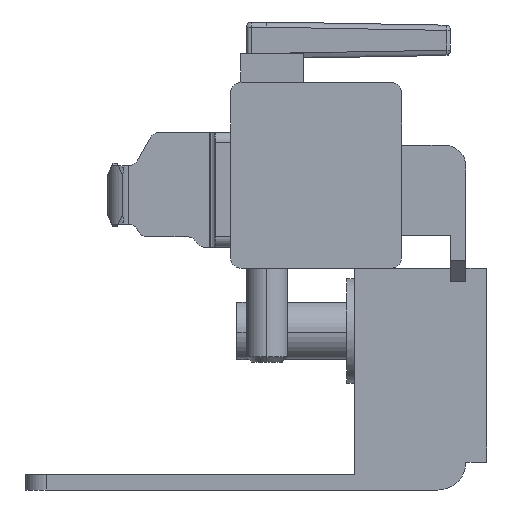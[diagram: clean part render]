
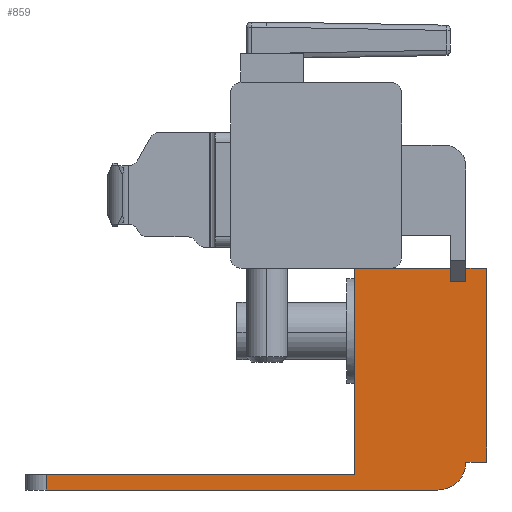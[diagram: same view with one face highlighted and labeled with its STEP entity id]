
A CAD part, left-side view. The second image highlights one B-rep face of the part: STEP entity #859.
In plain terms, the highlighted planar face has unit normal (-1, 0, 0).
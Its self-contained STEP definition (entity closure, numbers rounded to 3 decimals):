
#60 = VERTEX_POINT ( 'NONE', #2861 ) ;
#104 = DIRECTION ( 'NONE',  ( 0., 1., 0. ) ) ;
#128 = ORIENTED_EDGE ( 'NONE', *, *, #1213, .T. ) ;
#190 = VERTEX_POINT ( 'NONE', #672 ) ;
#259 = CARTESIAN_POINT ( 'NONE',  ( -381., -28.333, 40.749 ) ) ;
#271 = EDGE_LOOP ( 'NONE', ( #2175, #5175, #3751, #1990, #2206, #3690, #1150, #4305, #1864, #2895, #128, #1502, #2532 ) ) ;
#347 = VERTEX_POINT ( 'NONE', #4652 ) ;
#351 = FACE_OUTER_BOUND ( 'NONE', #271, .T. ) ;
#353 = CARTESIAN_POINT ( 'NONE',  ( -381., -26.863, 39.459 ) ) ;
#355 = VECTOR ( 'NONE', #1571, 1000. ) ;
#385 = VECTOR ( 'NONE', #3450, 1000. ) ;
#465 = CIRCLE ( 'NONE', #3448, 2.67 ) ;
#592 = CARTESIAN_POINT ( 'NONE',  ( -381., 11.767, 19.549 ) ) ;
#658 = CARTESIAN_POINT ( 'NONE',  ( -381., -28.333, 22.219 ) ) ;
#672 = CARTESIAN_POINT ( 'NONE',  ( -381., -17.713, 21.019 ) ) ;
#703 = CARTESIAN_POINT ( 'NONE',  ( -381., -17.713, 40.749 ) ) ;
#813 = VERTEX_POINT ( 'NONE', #1758 ) ;
#834 = DIRECTION ( 'NONE',  ( 0., 1., 0. ) ) ;
#859 = ADVANCED_FACE ( 'NONE', ( #351 ), #1041, .F. ) ;
#959 = LINE ( 'NONE', #1208, #4440 ) ;
#1021 = DIRECTION ( 'NONE',  ( 0., 1., 0. ) ) ;
#1041 = PLANE ( 'NONE',  #3249 ) ;
#1133 = DIRECTION ( 'NONE',  ( 1., 0., 0. ) ) ;
#1138 = DIRECTION ( 'NONE',  ( 0., -1., 0. ) ) ;
#1145 = EDGE_CURVE ( 'NONE', #347, #190, #1524, .T. ) ;
#1150 = ORIENTED_EDGE ( 'NONE', *, *, #1650, .F. ) ;
#1190 = EDGE_CURVE ( 'NONE', #347, #60, #5946, .T. ) ;
#1208 = CARTESIAN_POINT ( 'NONE',  ( -381., -30.333, 22.219 ) ) ;
#1213 = EDGE_CURVE ( 'NONE', #4526, #813, #3400, .T. ) ;
#1228 = VECTOR ( 'NONE', #1138, 1000. ) ;
#1329 = DIRECTION ( 'NONE',  ( 0., 1., 0. ) ) ;
#1353 = CARTESIAN_POINT ( 'NONE',  ( -381., -28.333, 40.749 ) ) ;
#1502 = ORIENTED_EDGE ( 'NONE', *, *, #3657, .T. ) ;
#1524 = LINE ( 'NONE', #5213, #5162 ) ;
#1538 = VERTEX_POINT ( 'NONE', #4500 ) ;
#1571 = DIRECTION ( 'NONE',  ( 0., 0., 1. ) ) ;
#1617 = CARTESIAN_POINT ( 'NONE',  ( -381., -29.063, 21.019 ) ) ;
#1619 = CARTESIAN_POINT ( 'NONE',  ( -381., -30.333, 22.219 ) ) ;
#1650 = EDGE_CURVE ( 'NONE', #3960, #2916, #4807, .T. ) ;
#1714 = VECTOR ( 'NONE', #5315, 1000. ) ;
#1743 = CARTESIAN_POINT ( 'NONE',  ( -381., -25.663, 22.219 ) ) ;
#1758 = CARTESIAN_POINT ( 'NONE',  ( -381., -30.333, 40.749 ) ) ;
#1808 = EDGE_CURVE ( 'NONE', #4526, #2243, #959, .T. ) ;
#1823 = DIRECTION ( 'NONE',  ( 0., 0., -1. ) ) ;
#1864 = ORIENTED_EDGE ( 'NONE', *, *, #5838, .F. ) ;
#1950 = LINE ( 'NONE', #5529, #3325 ) ;
#1990 = ORIENTED_EDGE ( 'NONE', *, *, #1190, .F. ) ;
#2068 = EDGE_CURVE ( 'NONE', #60, #1538, #1950, .T. ) ;
#2125 = CARTESIAN_POINT ( 'NONE',  ( -381., 14.667, 19.549 ) ) ;
#2153 = VECTOR ( 'NONE', #3007, 1000. ) ;
#2173 = CARTESIAN_POINT ( 'NONE',  ( -381., -25.663, 19.549 ) ) ;
#2175 = ORIENTED_EDGE ( 'NONE', *, *, #4755, .T. ) ;
#2192 = DIRECTION ( 'NONE',  ( 0., 0., 1. ) ) ;
#2206 = ORIENTED_EDGE ( 'NONE', *, *, #1145, .T. ) ;
#2231 = CARTESIAN_POINT ( 'NONE',  ( -381., -30.333, 22.219 ) ) ;
#2243 = VERTEX_POINT ( 'NONE', #658 ) ;
#2338 = VERTEX_POINT ( 'NONE', #2173 ) ;
#2368 = LINE ( 'NONE', #3128, #4641 ) ;
#2424 = CARTESIAN_POINT ( 'NONE',  ( -381., -29.063, 23.319 ) ) ;
#2532 = ORIENTED_EDGE ( 'NONE', *, *, #5669, .T. ) ;
#2625 = LINE ( 'NONE', #5607, #5052 ) ;
#2688 = LINE ( 'NONE', #1353, #5115 ) ;
#2814 = DIRECTION ( 'NONE',  ( 0., -1., 0. ) ) ;
#2861 = CARTESIAN_POINT ( 'NONE',  ( -381., -21.203, 40.749 ) ) ;
#2895 = ORIENTED_EDGE ( 'NONE', *, *, #1808, .F. ) ;
#2916 = VERTEX_POINT ( 'NONE', #3395 ) ;
#2951 = LINE ( 'NONE', #2125, #1714 ) ;
#3007 = DIRECTION ( 'NONE',  ( 0., 0., 1. ) ) ;
#3073 = EDGE_CURVE ( 'NONE', #3960, #2338, #2951, .T. ) ;
#3128 = CARTESIAN_POINT ( 'NONE',  ( -381., -30.333, 40.749 ) ) ;
#3195 = EDGE_CURVE ( 'NONE', #4514, #1538, #4783, .T. ) ;
#3215 = CARTESIAN_POINT ( 'NONE',  ( -381., 11.767, 21.319 ) ) ;
#3249 = AXIS2_PLACEMENT_3D ( 'NONE', #2424, #1133, #1329 ) ;
#3325 = VECTOR ( 'NONE', #2814, 1000. ) ;
#3395 = CARTESIAN_POINT ( 'NONE',  ( -381., 11.767, 21.019 ) ) ;
#3400 = LINE ( 'NONE', #1619, #2153 ) ;
#3448 = AXIS2_PLACEMENT_3D ( 'NONE', #1743, #4922, #2192 ) ;
#3450 = DIRECTION ( 'NONE',  ( 0., 1., 0. ) ) ;
#3657 = EDGE_CURVE ( 'NONE', #813, #4938, #2368, .T. ) ;
#3690 = ORIENTED_EDGE ( 'NONE', *, *, #4907, .T. ) ;
#3751 = ORIENTED_EDGE ( 'NONE', *, *, #2068, .F. ) ;
#3794 = DIRECTION ( 'NONE',  ( 0., 0., -1. ) ) ;
#3960 = VERTEX_POINT ( 'NONE', #592 ) ;
#4305 = ORIENTED_EDGE ( 'NONE', *, *, #3073, .T. ) ;
#4440 = VECTOR ( 'NONE', #1021, 1000. ) ;
#4497 = CARTESIAN_POINT ( 'NONE',  ( -381., -26.863, 40.749 ) ) ;
#4500 = CARTESIAN_POINT ( 'NONE',  ( -381., -26.863, 40.749 ) ) ;
#4514 = VERTEX_POINT ( 'NONE', #353 ) ;
#4526 = VERTEX_POINT ( 'NONE', #2231 ) ;
#4641 = VECTOR ( 'NONE', #834, 1000. ) ;
#4652 = CARTESIAN_POINT ( 'NONE',  ( -381., -17.713, 40.749 ) ) ;
#4741 = VERTEX_POINT ( 'NONE', #5582 ) ;
#4755 = EDGE_CURVE ( 'NONE', #4741, #4514, #2625, .T. ) ;
#4783 = LINE ( 'NONE', #4497, #4921 ) ;
#4807 = LINE ( 'NONE', #3215, #355 ) ;
#4907 = EDGE_CURVE ( 'NONE', #190, #2916, #5259, .T. ) ;
#4921 = VECTOR ( 'NONE', #5388, 1000. ) ;
#4922 = DIRECTION ( 'NONE',  ( 1., 0., 0. ) ) ;
#4938 = VERTEX_POINT ( 'NONE', #259 ) ;
#5052 = VECTOR ( 'NONE', #104, 1000. ) ;
#5115 = VECTOR ( 'NONE', #1823, 1000. ) ;
#5162 = VECTOR ( 'NONE', #3794, 1000. ) ;
#5175 = ORIENTED_EDGE ( 'NONE', *, *, #3195, .T. ) ;
#5213 = CARTESIAN_POINT ( 'NONE',  ( -381., -17.713, 40.749 ) ) ;
#5259 = LINE ( 'NONE', #1617, #385 ) ;
#5315 = DIRECTION ( 'NONE',  ( 0., -1., 0. ) ) ;
#5388 = DIRECTION ( 'NONE',  ( 0., 0., 1. ) ) ;
#5529 = CARTESIAN_POINT ( 'NONE',  ( -381., -17.713, 40.749 ) ) ;
#5582 = CARTESIAN_POINT ( 'NONE',  ( -381., -28.333, 39.459 ) ) ;
#5607 = CARTESIAN_POINT ( 'NONE',  ( -381., -26.863, 39.459 ) ) ;
#5669 = EDGE_CURVE ( 'NONE', #4938, #4741, #2688, .T. ) ;
#5838 = EDGE_CURVE ( 'NONE', #2243, #2338, #465, .T. ) ;
#5946 = LINE ( 'NONE', #703, #1228 ) ;
